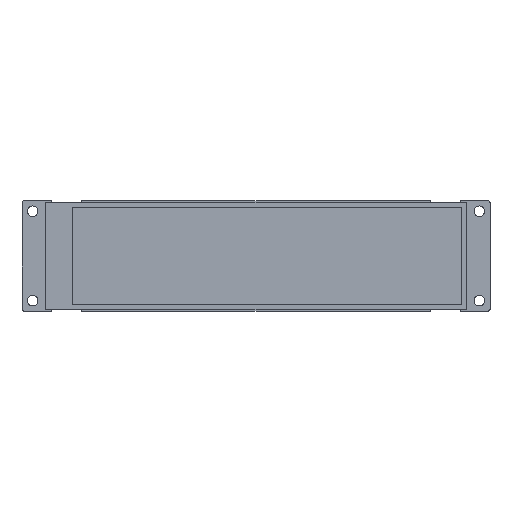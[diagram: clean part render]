
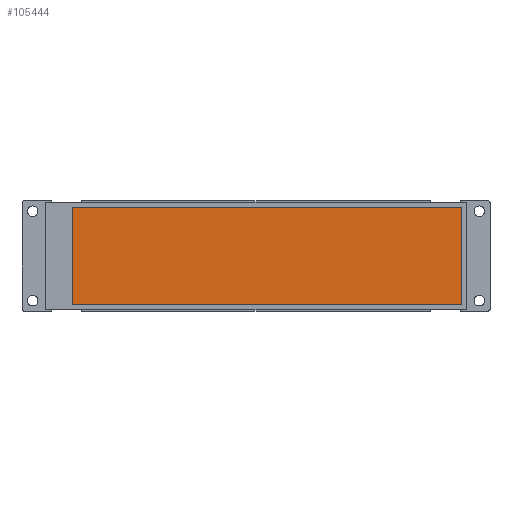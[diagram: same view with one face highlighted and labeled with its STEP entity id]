
A CAD part, top view. The second image highlights one B-rep face of the part: STEP entity #105444.
In plain terms, the highlighted planar face has unit normal (0, 0, 1) as drawn and (0, 1, 0) by its records, which use the part's own axes.
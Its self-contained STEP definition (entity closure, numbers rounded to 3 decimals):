
#9540=FACE_OUTER_BOUND('',#14971,.T.);
#14971=EDGE_LOOP('',(#91254,#91255,#91256,#91257));
#26785=LINE('',#180255,#38607);
#26788=LINE('',#180261,#38610);
#26791=LINE('',#180267,#38613);
#26794=LINE('',#180271,#38616);
#38607=VECTOR('',#136394,10.);
#38610=VECTOR('',#136399,10.);
#38613=VECTOR('',#136404,10.);
#38616=VECTOR('',#136409,10.);
#48011=VERTEX_POINT('',#180252);
#48012=VERTEX_POINT('',#180254);
#48014=VERTEX_POINT('',#180260);
#48016=VERTEX_POINT('',#180266);
#62422=EDGE_CURVE('',#48012,#48011,#26785,.T.);
#62425=EDGE_CURVE('',#48014,#48012,#26788,.T.);
#62428=EDGE_CURVE('',#48016,#48014,#26791,.T.);
#62431=EDGE_CURVE('',#48011,#48016,#26794,.T.);
#91254=ORIENTED_EDGE('',*,*,#62431,.T.);
#91255=ORIENTED_EDGE('',*,*,#62428,.T.);
#91256=ORIENTED_EDGE('',*,*,#62425,.T.);
#91257=ORIENTED_EDGE('',*,*,#62422,.T.);
#95169=PLANE('',#112223);
#105444=ADVANCED_FACE('',(#9540),#95169,.T.);
#112223=AXIS2_PLACEMENT_3D('',#180272,#136410,#136411);
#136394=DIRECTION('',(0.,0.,1.));
#136399=DIRECTION('',(-1.,0.,0.));
#136404=DIRECTION('',(0.,0.,-1.));
#136409=DIRECTION('',(1.,0.,0.));
#136410=DIRECTION('center_axis',(0.,1.,0.));
#136411=DIRECTION('ref_axis',(0.,0.,1.));
#180252=CARTESIAN_POINT('',(-43.135,3.4,11.455));
#180254=CARTESIAN_POINT('',(-43.135,3.4,-11.455));
#180255=CARTESIAN_POINT('',(-43.135,3.4,-11.455));
#180260=CARTESIAN_POINT('',(48.315,3.4,-11.455));
#180261=CARTESIAN_POINT('',(48.315,3.4,-11.455));
#180266=CARTESIAN_POINT('',(48.315,3.4,11.455));
#180267=CARTESIAN_POINT('',(48.315,3.4,11.455));
#180271=CARTESIAN_POINT('',(-43.135,3.4,11.455));
#180272=CARTESIAN_POINT('Origin',(2.59,3.4,0.));
